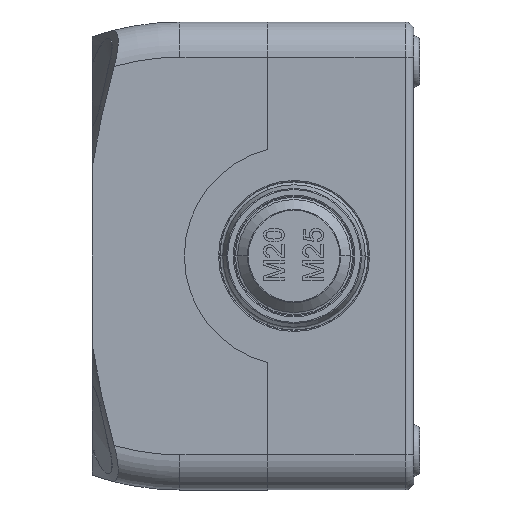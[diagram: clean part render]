
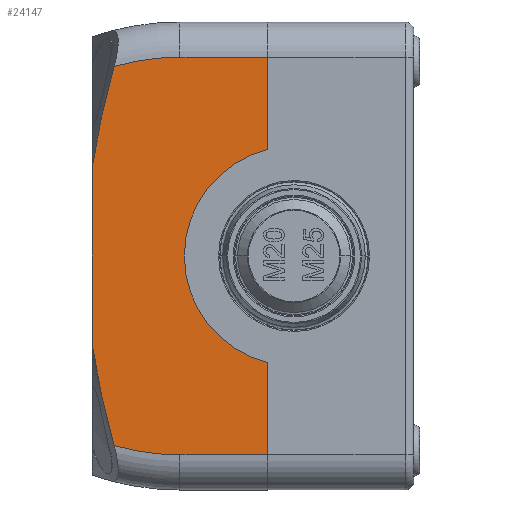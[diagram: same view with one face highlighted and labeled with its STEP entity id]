
A CAD part, left-side view. The second image highlights one B-rep face of the part: STEP entity #24147.
In plain terms, the highlighted planar face has unit normal (-1, 0, 0) as drawn and (0, 0, -1) by its records, which use the part's own axes.
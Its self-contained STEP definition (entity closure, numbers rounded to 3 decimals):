
#111 = ORIENTED_EDGE ( 'NONE', *, *, #28555, .F. ) ;
#259 = DIRECTION ( 'NONE',  ( 0., 0., 1. ) ) ;
#732 = AXIS2_PLACEMENT_3D ( 'NONE', #23241, #5346, #26186 ) ;
#1069 = VERTEX_POINT ( 'NONE', #33281 ) ;
#1160 = VECTOR ( 'NONE', #23900, 1000. ) ;
#1201 = CARTESIAN_POINT ( 'NONE',  ( 0., 15., -93. ) ) ;
#1384 = LINE ( 'NONE', #27266, #2298 ) ;
#1487 = CIRCLE ( 'NONE', #12845, 40.25 ) ;
#2298 = VECTOR ( 'NONE', #9415, 1000. ) ;
#2323 = VERTEX_POINT ( 'NONE', #22102 ) ;
#2744 = EDGE_CURVE ( 'NONE', #12315, #27602, #4009, .T. ) ;
#3062 = CARTESIAN_POINT ( 'NONE',  ( -34., -15., -93. ) ) ;
#3563 = EDGE_LOOP ( 'NONE', ( #31864, #13480, #23159, #20705, #111, #17682, #9897, #31950, #26673, #5987 ) ) ;
#4009 = B_SPLINE_CURVE_WITH_KNOTS ( 'NONE', 3,
 ( #30088, #27090, #9247, #12292, #33068, #15276 ),
 .UNSPECIFIED., .F., .F.,
 ( 4, 2, 4 ),
 ( 0.04, 0.049, 0.058 ),
 .UNSPECIFIED. ) ;
#4267 = EDGE_CURVE ( 'NONE', #27602, #21861, #21840, .T. ) ;
#4495 = CARTESIAN_POINT ( 'NONE',  ( -20.957, 14.01, -93. ) ) ;
#5346 = DIRECTION ( 'NONE',  ( 0., 0., -1. ) ) ;
#5677 = EDGE_CURVE ( 'NONE', #11690, #2323, #32449, .T. ) ;
#5987 = ORIENTED_EDGE ( 'NONE', *, *, #11716, .T. ) ;
#5996 = CARTESIAN_POINT ( 'NONE',  ( 34., -15., -93. ) ) ;
#6024 = CARTESIAN_POINT ( 'NONE',  ( 34., -15., -93. ) ) ;
#7524 = CARTESIAN_POINT ( 'NONE',  ( -29.561, 12.027, -93. ) ) ;
#7576 = CARTESIAN_POINT ( 'NONE',  ( 15.124, 15., -93. ) ) ;
#8858 = AXIS2_PLACEMENT_3D ( 'NONE', #18153, #259, #21151 ) ;
#9247 = CARTESIAN_POINT ( 'NONE',  ( 20.957, 14.01, -93. ) ) ;
#9415 = DIRECTION ( 'NONE',  ( 0., -1., 0. ) ) ;
#9491 = EDGE_CURVE ( 'NONE', #12315, #1069, #15050, .T. ) ;
#9897 = ORIENTED_EDGE ( 'NONE', *, *, #2744, .T. ) ;
#11309 = VERTEX_POINT ( 'NONE', #5996 ) ;
#11690 = VERTEX_POINT ( 'NONE', #3062 ) ;
#11716 = EDGE_CURVE ( 'NONE', #11309, #28997, #27944, .T. ) ;
#12240 = DIRECTION ( 'NONE',  ( -1., 0., 0. ) ) ;
#12246 = CARTESIAN_POINT ( 'NONE',  ( -34., 0., -93. ) ) ;
#12292 = CARTESIAN_POINT ( 'NONE',  ( 26.709, 12.744, -93. ) ) ;
#12315 = VERTEX_POINT ( 'NONE', #7576 ) ;
#12845 = AXIS2_PLACEMENT_3D ( 'NONE', #34164, #16353, #37133 ) ;
#13480 = ORIENTED_EDGE ( 'NONE', *, *, #5677, .F. ) ;
#15050 = LINE ( 'NONE', #1201, #22053 ) ;
#15276 = CARTESIAN_POINT ( 'NONE',  ( 32.396, 11.249, -93. ) ) ;
#16122 = LINE ( 'NONE', #6024, #1160 ) ;
#16353 = DIRECTION ( 'NONE',  ( 0., 0., 1. ) ) ;
#16399 = CARTESIAN_POINT ( 'NONE',  ( -18.056, 14.56, -93. ) ) ;
#17682 = ORIENTED_EDGE ( 'NONE', *, *, #9491, .F. ) ;
#18031 = VERTEX_POINT ( 'NONE', #12246 ) ;
#18153 = CARTESIAN_POINT ( 'NONE',  ( 0., -19.5, -93. ) ) ;
#18691 = CARTESIAN_POINT ( 'NONE',  ( 0., -15., -93. ) ) ;
#20067 = VECTOR ( 'NONE', #12240, 1000. ) ;
#20705 = ORIENTED_EDGE ( 'NONE', *, *, #21069, .F. ) ;
#21069 = EDGE_CURVE ( 'NONE', #28509, #18031, #1487, .T. ) ;
#21151 = DIRECTION ( 'NONE',  ( 1., 0., 0. ) ) ;
#21497 = CARTESIAN_POINT ( 'NONE',  ( 34., 0., -93. ) ) ;
#21840 = CIRCLE ( 'NONE', #732, 40.25 ) ;
#21861 = VERTEX_POINT ( 'NONE', #21497 ) ;
#22053 = VECTOR ( 'NONE', #22110, 1000. ) ;
#22102 = CARTESIAN_POINT ( 'NONE',  ( -18.202, -15., -93. ) ) ;
#22110 = DIRECTION ( 'NONE',  ( -1., 0., 0. ) ) ;
#22698 = VECTOR ( 'NONE', #33505, 1000. ) ;
#22868 = AXIS2_PLACEMENT_3D ( 'NONE', #33987, #36711, #36965 ) ;
#23159 = ORIENTED_EDGE ( 'NONE', *, *, #23531, .F. ) ;
#23241 = CARTESIAN_POINT ( 'NONE',  ( -6.25, 0., -93. ) ) ;
#23531 = EDGE_CURVE ( 'NONE', #18031, #11690, #1384, .T. ) ;
#23900 = DIRECTION ( 'NONE',  ( 0., -1., 0. ) ) ;
#23978 = EDGE_CURVE ( 'NONE', #28997, #2323, #30745, .T. ) ;
#24147 = ADVANCED_FACE ( 'NONE', ( #26074 ), #36582, .T. ) ;
#24953 = CARTESIAN_POINT ( 'NONE',  ( 32.396, 11.249, -93. ) ) ;
#24994 = CARTESIAN_POINT ( 'NONE',  ( -32.396, 11.249, -93. ) ) ;
#25377 = CARTESIAN_POINT ( 'NONE',  ( -26.709, 12.744, -93. ) ) ;
#26074 = FACE_OUTER_BOUND ( 'NONE', #3563, .T. ) ;
#26186 = DIRECTION ( 'NONE',  ( -1., 0., 0. ) ) ;
#26673 = ORIENTED_EDGE ( 'NONE', *, *, #27844, .T. ) ;
#27090 = CARTESIAN_POINT ( 'NONE',  ( 18.056, 14.56, -93. ) ) ;
#27266 = CARTESIAN_POINT ( 'NONE',  ( -34., -15., -93. ) ) ;
#27602 = VERTEX_POINT ( 'NONE', #24953 ) ;
#27844 = EDGE_CURVE ( 'NONE', #21861, #11309, #16122, .T. ) ;
#27944 = LINE ( 'NONE', #30036, #20067 ) ;
#28348 = CARTESIAN_POINT ( 'NONE',  ( -32.396, 11.249, -93. ) ) ;
#28509 = VERTEX_POINT ( 'NONE', #24994 ) ;
#28555 = EDGE_CURVE ( 'NONE', #1069, #28509, #38262, .T. ) ;
#28997 = VERTEX_POINT ( 'NONE', #31714 ) ;
#30036 = CARTESIAN_POINT ( 'NONE',  ( 0., -15., -93. ) ) ;
#30088 = CARTESIAN_POINT ( 'NONE',  ( 15.124, 15., -93. ) ) ;
#30745 = CIRCLE ( 'NONE', #8858, 18.75 ) ;
#31714 = CARTESIAN_POINT ( 'NONE',  ( 18.202, -15., -93. ) ) ;
#31864 = ORIENTED_EDGE ( 'NONE', *, *, #23978, .T. ) ;
#31950 = ORIENTED_EDGE ( 'NONE', *, *, #4267, .T. ) ;
#32449 = LINE ( 'NONE', #18691, #22698 ) ;
#33068 = CARTESIAN_POINT ( 'NONE',  ( 29.561, 12.027, -93. ) ) ;
#33281 = CARTESIAN_POINT ( 'NONE',  ( -15.124, 15., -93. ) ) ;
#33505 = DIRECTION ( 'NONE',  ( 1., 0., 0. ) ) ;
#33987 = CARTESIAN_POINT ( 'NONE',  ( 6.25, 0., -93. ) ) ;
#34164 = CARTESIAN_POINT ( 'NONE',  ( 6.25, 0., -93. ) ) ;
#34216 = CARTESIAN_POINT ( 'NONE',  ( -15.124, 15., -93. ) ) ;
#36582 = PLANE ( 'NONE',  #22868 ) ;
#36711 = DIRECTION ( 'NONE',  ( 0., 0., -1. ) ) ;
#36965 = DIRECTION ( 'NONE',  ( 1., 0., 0. ) ) ;
#37133 = DIRECTION ( 'NONE',  ( 1., 0., 0. ) ) ;
#38262 = B_SPLINE_CURVE_WITH_KNOTS ( 'NONE', 3,
 ( #34216, #16399, #4495, #25377, #7524, #28348 ),
 .UNSPECIFIED., .F., .F.,
 ( 4, 2, 4 ),
 ( 0.04, 0.049, 0.058 ),
 .UNSPECIFIED. ) ;
